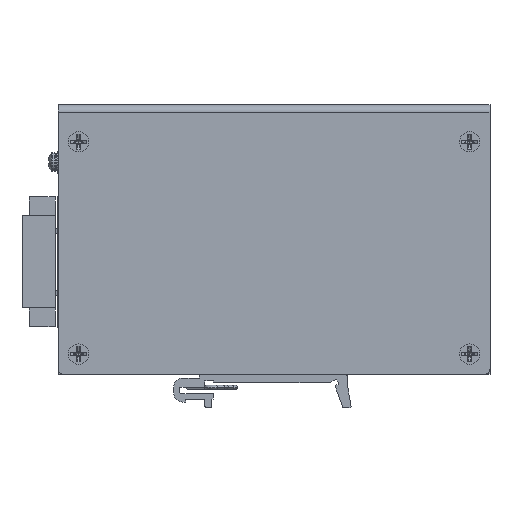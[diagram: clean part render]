
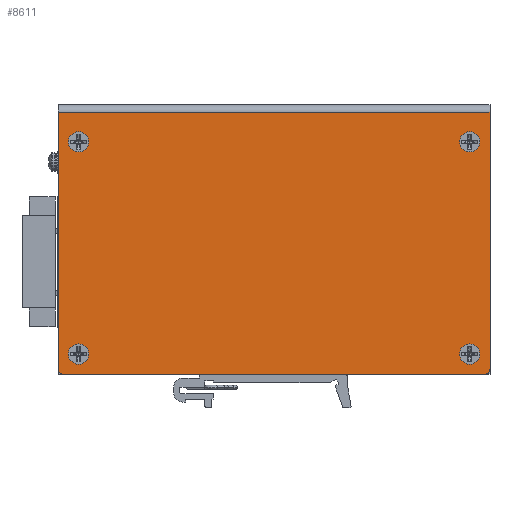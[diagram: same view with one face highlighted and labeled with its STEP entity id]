
A CAD part, front view. The second image highlights one B-rep face of the part: STEP entity #8611.
In plain terms, the highlighted planar face has unit normal (0, -1, 0) as drawn and (0, 0, 1) by its records, which use the part's own axes.
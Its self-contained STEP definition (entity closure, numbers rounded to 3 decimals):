
#6170=DIRECTION('',(-1.,0.,0.));
#6171=VECTOR('',#6170,117.);
#6172=CARTESIAN_POINT('',(58.5,-0.5,14.8));
#6173=LINE('',#6172,#6171);
#6184=CARTESIAN_POINT('',(57.,-70.,14.8));
#6185=DIRECTION('',(0.,0.,-1.));
#6186=DIRECTION('',(1.,0.,0.));
#6187=AXIS2_PLACEMENT_3D('',#6184,#6185,#6186);
#6192=CARTESIAN_POINT('',(-57.,-70.,14.8));
#6193=DIRECTION('',(0.,0.,-1.));
#6194=DIRECTION('',(0.,-1.,0.));
#6195=AXIS2_PLACEMENT_3D('',#6192,#6193,#6194);
#6200=CARTESIAN_POINT('',(-53.,-66.,14.8));
#6201=DIRECTION('',(0.,0.,1.));
#6202=DIRECTION('',(-1.,0.,0.));
#6203=AXIS2_PLACEMENT_3D('',#6200,#6201,#6202);
#6208=CARTESIAN_POINT('',(-53.,-66.,14.8));
#6209=DIRECTION('',(0.,0.,1.));
#6210=DIRECTION('',(0.,-1.,0.));
#6211=AXIS2_PLACEMENT_3D('',#6208,#6209,#6210);
#6216=CARTESIAN_POINT('',(-53.,-66.,14.8));
#6217=DIRECTION('',(0.,0.,1.));
#6218=DIRECTION('',(1.,0.,0.));
#6219=AXIS2_PLACEMENT_3D('',#6216,#6217,#6218);
#6224=CARTESIAN_POINT('',(-53.,-66.,14.8));
#6225=DIRECTION('',(0.,0.,1.));
#6226=DIRECTION('',(0.,1.,0.));
#6227=AXIS2_PLACEMENT_3D('',#6224,#6225,#6226);
#6232=CARTESIAN_POINT('',(53.,-66.,14.8));
#6233=DIRECTION('',(0.,0.,1.));
#6234=DIRECTION('',(-1.,0.,0.));
#6235=AXIS2_PLACEMENT_3D('',#6232,#6233,#6234);
#6240=CARTESIAN_POINT('',(53.,-66.,14.8));
#6241=DIRECTION('',(0.,0.,1.));
#6242=DIRECTION('',(0.,-1.,0.));
#6243=AXIS2_PLACEMENT_3D('',#6240,#6241,#6242);
#6248=CARTESIAN_POINT('',(53.,-66.,14.8));
#6249=DIRECTION('',(0.,0.,1.));
#6250=DIRECTION('',(1.,0.,0.));
#6251=AXIS2_PLACEMENT_3D('',#6248,#6249,#6250);
#6256=CARTESIAN_POINT('',(53.,-66.,14.8));
#6257=DIRECTION('',(0.,0.,1.));
#6258=DIRECTION('',(0.,1.,0.));
#6259=AXIS2_PLACEMENT_3D('',#6256,#6257,#6258);
#6264=CARTESIAN_POINT('',(53.,-8.5,14.8));
#6265=DIRECTION('',(0.,0.,1.));
#6266=DIRECTION('',(-1.,0.,0.));
#6267=AXIS2_PLACEMENT_3D('',#6264,#6265,#6266);
#6272=CARTESIAN_POINT('',(53.,-8.5,14.8));
#6273=DIRECTION('',(0.,0.,1.));
#6274=DIRECTION('',(0.,-1.,0.));
#6275=AXIS2_PLACEMENT_3D('',#6272,#6273,#6274);
#6280=CARTESIAN_POINT('',(53.,-8.5,14.8));
#6281=DIRECTION('',(0.,0.,1.));
#6282=DIRECTION('',(1.,0.,0.));
#6283=AXIS2_PLACEMENT_3D('',#6280,#6281,#6282);
#6288=CARTESIAN_POINT('',(53.,-8.5,14.8));
#6289=DIRECTION('',(0.,0.,1.));
#6290=DIRECTION('',(0.,1.,0.));
#6291=AXIS2_PLACEMENT_3D('',#6288,#6289,#6290);
#6296=CARTESIAN_POINT('',(-53.,-8.5,14.8));
#6297=DIRECTION('',(0.,0.,1.));
#6298=DIRECTION('',(-1.,0.,0.));
#6299=AXIS2_PLACEMENT_3D('',#6296,#6297,#6298);
#6304=CARTESIAN_POINT('',(-53.,-8.5,14.8));
#6305=DIRECTION('',(0.,0.,1.));
#6306=DIRECTION('',(0.,-1.,0.));
#6307=AXIS2_PLACEMENT_3D('',#6304,#6305,#6306);
#6312=CARTESIAN_POINT('',(-53.,-8.5,14.8));
#6313=DIRECTION('',(0.,0.,1.));
#6314=DIRECTION('',(1.,0.,0.));
#6315=AXIS2_PLACEMENT_3D('',#6312,#6313,#6314);
#6320=CARTESIAN_POINT('',(-53.,-8.5,14.8));
#6321=DIRECTION('',(0.,0.,1.));
#6322=DIRECTION('',(0.,1.,0.));
#6323=AXIS2_PLACEMENT_3D('',#6320,#6321,#6322);
#6342=DIRECTION('',(0.,1.,0.));
#6343=VECTOR('',#6342,69.5);
#6344=CARTESIAN_POINT('',(58.5,-70.,14.8));
#6345=LINE('',#6344,#6343);
#7417=DIRECTION('',(0.,-1.,0.));
#7418=VECTOR('',#7417,69.5);
#7419=CARTESIAN_POINT('',(-58.5,-0.5,14.8));
#7420=LINE('',#7419,#7418);
#7438=DIRECTION('',(1.,0.,0.));
#7439=VECTOR('',#7438,114.);
#7440=CARTESIAN_POINT('',(-57.,-71.5,14.8));
#7441=LINE('',#7440,#7439);
#8143=CARTESIAN_POINT('',(-58.5,-0.5,14.8));
#8144=VERTEX_POINT('',#8143);
#8147=CARTESIAN_POINT('',(58.5,-0.5,14.8));
#8148=VERTEX_POINT('',#8147);
#8149=CARTESIAN_POINT('',(58.5,-70.,14.8));
#8150=CARTESIAN_POINT('',(57.,-71.5,14.8));
#8151=VERTEX_POINT('',#8149);
#8152=VERTEX_POINT('',#8150);
#8153=CARTESIAN_POINT('',(-57.,-71.5,14.8));
#8154=VERTEX_POINT('',#8153);
#8155=CARTESIAN_POINT('',(-58.5,-70.,14.8));
#8156=VERTEX_POINT('',#8155);
#8157=CARTESIAN_POINT('',(-53.,-68.65,14.8));
#8158=CARTESIAN_POINT('',(-50.35,-66.,14.8));
#8159=VERTEX_POINT('',#8157);
#8160=VERTEX_POINT('',#8158);
#8161=CARTESIAN_POINT('',(-55.65,-66.,14.8));
#8162=VERTEX_POINT('',#8161);
#8163=CARTESIAN_POINT('',(-53.,-63.35,14.8));
#8164=VERTEX_POINT('',#8163);
#8165=CARTESIAN_POINT('',(53.,-68.65,14.8));
#8166=CARTESIAN_POINT('',(55.65,-66.,14.8));
#8167=VERTEX_POINT('',#8165);
#8168=VERTEX_POINT('',#8166);
#8169=CARTESIAN_POINT('',(50.35,-66.,14.8));
#8170=VERTEX_POINT('',#8169);
#8171=CARTESIAN_POINT('',(53.,-63.35,14.8));
#8172=VERTEX_POINT('',#8171);
#8173=CARTESIAN_POINT('',(53.,-11.15,14.8));
#8174=CARTESIAN_POINT('',(55.65,-8.5,14.8));
#8175=VERTEX_POINT('',#8173);
#8176=VERTEX_POINT('',#8174);
#8177=CARTESIAN_POINT('',(50.35,-8.5,14.8));
#8178=VERTEX_POINT('',#8177);
#8179=CARTESIAN_POINT('',(53.,-5.85,14.8));
#8180=VERTEX_POINT('',#8179);
#8181=CARTESIAN_POINT('',(-53.,-11.15,14.8));
#8182=CARTESIAN_POINT('',(-50.35,-8.5,14.8));
#8183=VERTEX_POINT('',#8181);
#8184=VERTEX_POINT('',#8182);
#8185=CARTESIAN_POINT('',(-55.65,-8.5,14.8));
#8186=VERTEX_POINT('',#8185);
#8187=CARTESIAN_POINT('',(-53.,-5.85,14.8));
#8188=VERTEX_POINT('',#8187);
#8553=CARTESIAN_POINT('',(-58.5,1.5,14.8));
#8554=DIRECTION('',(0.,0.,1.));
#8555=DIRECTION('',(-1.,0.,0.));
#8556=AXIS2_PLACEMENT_3D('',#8553,#8554,#8555);
#8557=PLANE('',#8556);
#8559=ORIENTED_EDGE('',*,*,#8558,.T.);
#8561=ORIENTED_EDGE('',*,*,#8560,.F.);
#8563=ORIENTED_EDGE('',*,*,#8562,.T.);
#8565=ORIENTED_EDGE('',*,*,#8564,.F.);
#8566=ORIENTED_EDGE('',*,*,#8544,.F.);
#8568=ORIENTED_EDGE('',*,*,#8567,.F.);
#8569=EDGE_LOOP('',(#8559,#8561,#8563,#8565,#8566,#8568));
#8570=FACE_OUTER_BOUND('',#8569,.F.);
#8572=ORIENTED_EDGE('',*,*,#8571,.T.);
#8574=ORIENTED_EDGE('',*,*,#8573,.T.);
#8576=ORIENTED_EDGE('',*,*,#8575,.T.);
#8578=ORIENTED_EDGE('',*,*,#8577,.T.);
#8579=EDGE_LOOP('',(#8572,#8574,#8576,#8578));
#8580=FACE_BOUND('',#8579,.F.);
#8582=ORIENTED_EDGE('',*,*,#8581,.T.);
#8584=ORIENTED_EDGE('',*,*,#8583,.T.);
#8586=ORIENTED_EDGE('',*,*,#8585,.T.);
#8588=ORIENTED_EDGE('',*,*,#8587,.T.);
#8589=EDGE_LOOP('',(#8582,#8584,#8586,#8588));
#8590=FACE_BOUND('',#8589,.F.);
#8592=ORIENTED_EDGE('',*,*,#8591,.T.);
#8594=ORIENTED_EDGE('',*,*,#8593,.T.);
#8596=ORIENTED_EDGE('',*,*,#8595,.T.);
#8598=ORIENTED_EDGE('',*,*,#8597,.T.);
#8599=EDGE_LOOP('',(#8592,#8594,#8596,#8598));
#8600=FACE_BOUND('',#8599,.F.);
#8602=ORIENTED_EDGE('',*,*,#8601,.T.);
#8604=ORIENTED_EDGE('',*,*,#8603,.T.);
#8606=ORIENTED_EDGE('',*,*,#8605,.T.);
#8608=ORIENTED_EDGE('',*,*,#8607,.T.);
#8609=EDGE_LOOP('',(#8602,#8604,#8606,#8608));
#8610=FACE_BOUND('',#8609,.F.);
#6188=CIRCLE('',#6187,1.5);
#6196=CIRCLE('',#6195,1.5);
#6204=CIRCLE('',#6203,2.65);
#6212=CIRCLE('',#6211,2.65);
#6220=CIRCLE('',#6219,2.65);
#6228=CIRCLE('',#6227,2.65);
#6236=CIRCLE('',#6235,2.65);
#6244=CIRCLE('',#6243,2.65);
#6252=CIRCLE('',#6251,2.65);
#6260=CIRCLE('',#6259,2.65);
#6268=CIRCLE('',#6267,2.65);
#6276=CIRCLE('',#6275,2.65);
#6284=CIRCLE('',#6283,2.65);
#6292=CIRCLE('',#6291,2.65);
#6300=CIRCLE('',#6299,2.65);
#6308=CIRCLE('',#6307,2.65);
#6316=CIRCLE('',#6315,2.65);
#6324=CIRCLE('',#6323,2.65);
#8544=EDGE_CURVE('',#8148,#8144,#6173,.T.);
#8558=EDGE_CURVE('',#8151,#8152,#6188,.T.);
#8560=EDGE_CURVE('',#8154,#8152,#7441,.T.);
#8562=EDGE_CURVE('',#8154,#8156,#6196,.T.);
#8564=EDGE_CURVE('',#8144,#8156,#7420,.T.);
#8567=EDGE_CURVE('',#8151,#8148,#6345,.T.);
#8571=EDGE_CURVE('',#8162,#8159,#6204,.T.);
#8573=EDGE_CURVE('',#8159,#8160,#6212,.T.);
#8575=EDGE_CURVE('',#8160,#8164,#6220,.T.);
#8577=EDGE_CURVE('',#8164,#8162,#6228,.T.);
#8581=EDGE_CURVE('',#8170,#8167,#6236,.T.);
#8583=EDGE_CURVE('',#8167,#8168,#6244,.T.);
#8585=EDGE_CURVE('',#8168,#8172,#6252,.T.);
#8587=EDGE_CURVE('',#8172,#8170,#6260,.T.);
#8591=EDGE_CURVE('',#8178,#8175,#6268,.T.);
#8593=EDGE_CURVE('',#8175,#8176,#6276,.T.);
#8595=EDGE_CURVE('',#8176,#8180,#6284,.T.);
#8597=EDGE_CURVE('',#8180,#8178,#6292,.T.);
#8601=EDGE_CURVE('',#8186,#8183,#6300,.T.);
#8603=EDGE_CURVE('',#8183,#8184,#6308,.T.);
#8605=EDGE_CURVE('',#8184,#8188,#6316,.T.);
#8607=EDGE_CURVE('',#8188,#8186,#6324,.T.);
#8611=ADVANCED_FACE('',(#8570,#8580,#8590,#8600,#8610),#8557,.T.);
